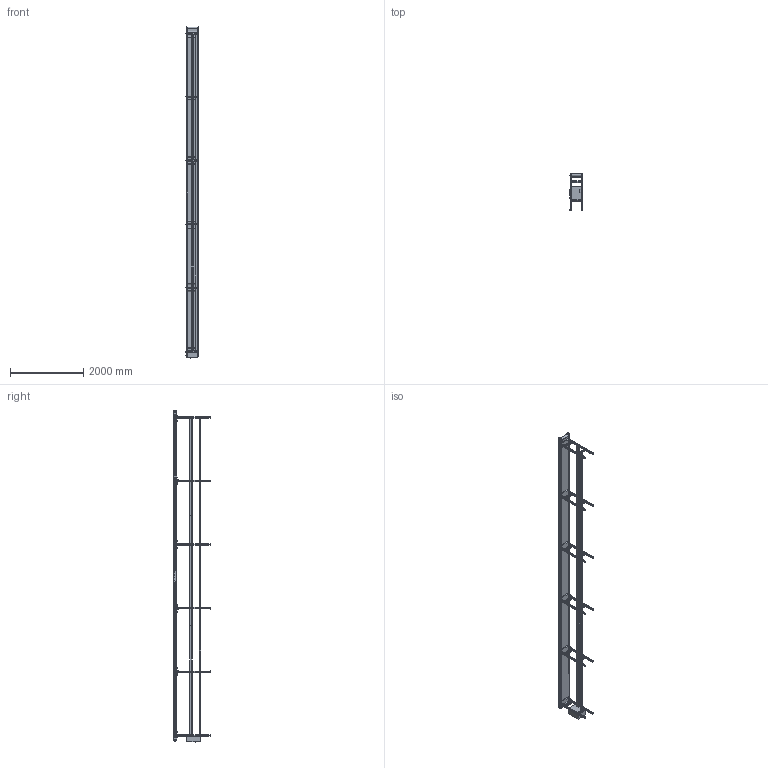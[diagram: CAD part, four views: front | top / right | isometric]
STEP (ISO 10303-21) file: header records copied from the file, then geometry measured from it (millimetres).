
FILE_DESCRIPTION(/* description */ (''),/* implementation_level */ '2;1');
FILE_NAME(/* name */ 'beltconveyor_a085_w300_l9000.stp',/* time_stamp */ '2025-01-01T19:58:51+08:00',/* author */ (''),/* organization */ (''),/* preprocessor_version */ 'ST-DEVELOPER v16.7',/* originating_system */ 'SIEMENS PLM Software NX 12.0',/* authorisation */ '');
FILE_SCHEMA (('AUTOMOTIVE_DESIGN { 1 0 10303 214 3 1 1 1 }'));
Products named in the file (23): 从动滚筒固定块; 线槽3000; 从动滚; 电动滚筒; 2080型材连接件; 电控箱; 线槽盖2520; 线槽3000开孔不同; 线槽盖3000; 4040型材-腿部纵撑; 线槽2520; 2080型材L4400; 主动滚筒固定块; 40402080连接角码; 4040型材-腿部横撑; 长线皮带托板; 托辊; 2.5挡圈; 传送带; 托辊座; 4040型材-腿; M8-50脚撑; beltconveyor_a085_w300_l9000
Assembly tree (126 placements, depth 2):
  beltconveyor_a085_w300_l9000
    M8-50脚撑  x12
    4040型材-腿  x12
    托辊座  x24
    传送带
    2.5挡圈  x4
    托辊  x12
    长线皮带托板  x5
    4040型材-腿部横撑  x12
    40402080连接角码  x20
    主动滚筒固定块  x2
    2080型材L4400  x4
    线槽2520
    4040型材-腿部纵撑  x5
    线槽盖3000  x2
    线槽3000开孔不同
    线槽盖2520
    电控箱
    2080型材连接件  x2
    电动滚筒
    从动滚
    线槽3000
    从动滚筒固定块  x2
Bounding box: 372.5 x 1005 x 9040 mm (x, y, z)
Volume: 74813801.3 mm3; surface area: 38966286.6 mm2
Topology: 320 solids, 320 shells, 9025 faces, 24220 edges, 15916 vertices
Faces by surface type: plane 5539, extrusion 1968, cylinder 1322, cone 160, bspline 36
Entity records: 80095 total; most frequent: CARTESIAN_POINT 23719, ORIENTED_EDGE 11900, DIRECTION 9148, EDGE_CURVE 5950, VECTOR 4074, VERTEX_POINT 3948, LINE 3582, AXIS2_PLACEMENT_3D 2537
